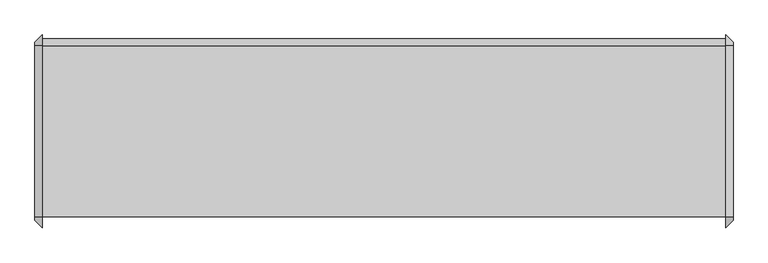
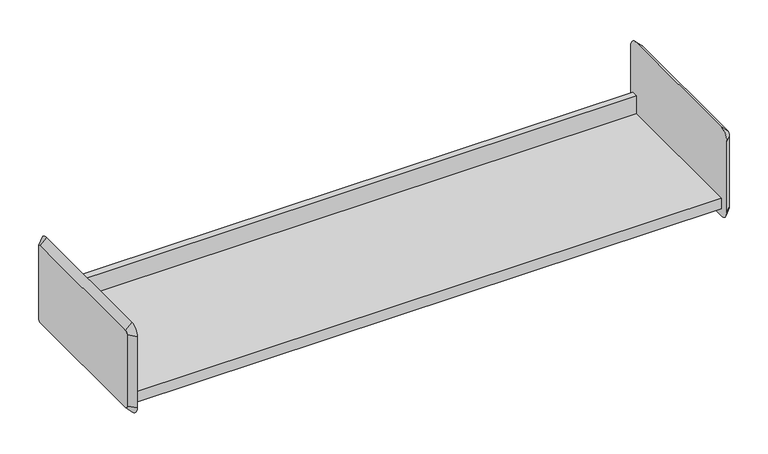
"""IFC4 building model written with IfcOpenShell, lengths in millimetres: furniture geometry."""

from ifc_helpers import new_model, si_unit, frame, origin, place, context, project, spatial, polyline, circle_curve, outline, extrude, source, transform, mapped, element, save
from ifc_brep_helpers import plane_surface, revolved_surface, advanced_brep


def furniture_f92ff600(model_context):
    return source(origin(), model_context, "Body", "SolidModel", [
        extrude(outline(polyline([(-136.525, 1384.3), (161.925, 1384.3), (161.925, 1422.4), (174.625, 1422.4), (174.625, 1419.225), (165.1, 1419.225), (165.1, 1381.125), (-133.35, 1381.125), (-133.35, 1362.075), (-136.525, 1362.075), (-136.525, 1384.3)])), frame((-720.8420045, 0.0, 0.0), z_axis=(1.0, 0.0, 0.0), x_axis=(0.0, 1.0, 0.0)), (0.0, 0.0, 1.0), 1193.8),
        advanced_brep(
        [(485.6579955, 161.925, 1524.0), (485.6579955, -136.525, 1524.0), (485.6579955, -142.875, 1517.65), (485.6579955, -142.875, 1365.25), (485.6579955, -136.525, 1358.9), (485.6579955, 161.925, 1358.9), (485.6579955, 168.275, 1365.25), (485.6579955, 168.275, 1517.65), (472.9579955, 161.925, 1536.7), (472.9579955, 180.975, 1517.65), (472.9579955, 180.975, 1365.25), (472.9579955, 161.925, 1346.2), (472.9579955, -136.525, 1346.2), (472.9579955, -155.575, 1365.25), (472.9579955, -155.575, 1517.65), (472.9579955, -136.525, 1536.7)],
        [
            (0, 1),
            (1, 2, circle_curve(frame((485.6579955, -136.525, 1517.65), z_axis=(1.0, 2.0730084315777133e-12, -2.152944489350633e-12), x_axis=(2.152910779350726e-12, 0.0, 1.0)), 6.35)),
            (2, 3),
            (3, 4, circle_curve(frame((485.6579955, -136.525, 1365.25), z_axis=(1.0, 2.062350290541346e-12, 2.067679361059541e-12), x_axis=(2.062316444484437e-12, -1.0, 0.0)), 6.35)),
            (4, 5),
            (5, 6, circle_curve(frame((485.6579955, 161.925, 1365.25), z_axis=(1.0, 2.0889956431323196e-12, -2.0889956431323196e-12), x_axis=(-2.089008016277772e-12, 0.0, -1.0)), 6.35)),
            (6, 7),
            (7, 0, circle_curve(frame((485.6579955, 161.925, 1517.65), z_axis=(1.0, 2.075672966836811e-12, 2.003730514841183e-12), x_axis=(-2.075662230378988e-12, 1.0, 0.0)), 6.35)),
            (8, 9, circle_curve(frame((472.9579955, 161.925, 1517.65), z_axis=(-1.0, -2.075672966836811e-12, -2.003730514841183e-12), x_axis=(-2.075662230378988e-12, 1.0, 0.0)), 19.05)),
            (9, 10),
            (10, 11, circle_curve(frame((472.9579955, 161.925, 1365.25), z_axis=(-1.0, -2.0889956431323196e-12, 2.0889956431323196e-12), x_axis=(-2.089008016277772e-12, 0.0, -1.0)), 19.05)),
            (11, 12),
            (12, 13, circle_curve(frame((472.9579955, -136.525, 1365.25), z_axis=(-1.0, -2.062350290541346e-12, -2.067679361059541e-12), x_axis=(2.062316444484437e-12, -1.0, 0.0)), 19.05)),
            (13, 14),
            (14, 15, circle_curve(frame((472.9579955, -136.525, 1517.65), z_axis=(-1.0, -2.0730084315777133e-12, 2.152944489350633e-12), x_axis=(2.152910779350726e-12, 0.0, 1.0)), 19.05)),
            (15, 8),
            (15, 1),
            (0, 8),
            (14, 2),
            (13, 3),
            (12, 4),
            (11, 5),
            (10, 6),
            (9, 7),
        ],
        [
            plane_surface(frame((485.6579955, 12.7, 1441.45), z_axis=(1.0, 0.0, 0.0), x_axis=(0.0, -1.0, 0.0))),
            plane_surface(frame((472.9579955, 12.7, 1441.45), z_axis=(-1.0, 0.0, 0.0), x_axis=(0.0, -1.0, 0.0))),
            plane_surface(frame((472.9579955, 12.7, 1536.7), z_axis=(0.707106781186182, 0.0, 0.7071067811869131), x_axis=(0.0, -1.0, 0.0))),
            revolved_surface(polyline([(485.6579955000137, -136.525, 1523.9999999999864), (472.9579955, -136.525, 1536.7)]), (492.0079955, -136.525, 1517.65), (-1.0, -2.0730084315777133e-12, 2.152944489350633e-12)),
            plane_surface(frame((472.9579955, -155.575, 1441.45), z_axis=(0.7071067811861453, -0.7071067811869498, 0.0), x_axis=(0.0, 0.0, -1.0))),
            revolved_surface(polyline([(485.6579955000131, -142.87499999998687, 1365.25), (472.95799549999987, -155.5750000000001, 1365.25)]), (492.0079955, -136.525, 1365.25), (-1.0, -2.062350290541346e-12, -2.067679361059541e-12)),
            plane_surface(frame((472.9579955, 12.7, 1346.2), z_axis=(0.707106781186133, 0.0, -0.707106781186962), x_axis=(0.0, 1.0, 0.0))),
            revolved_surface(polyline([(485.6579955, 161.925, 1358.9), (472.9579954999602, 161.925, 1346.1999999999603)]), (492.0079955, 161.925, 1365.25), (-1.0, -2.0889956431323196e-12, 2.0889956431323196e-12)),
            plane_surface(frame((472.9579955, 180.975, 1441.45), z_axis=(0.7071067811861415, 0.7071067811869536, 0.0), x_axis=(0.0, 0.0, 1.0))),
            revolved_surface(polyline([(485.6579955, 168.27499999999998, 1517.65), (472.9579954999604, 180.97500000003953, 1517.65)]), (492.0079955, 161.925, 1517.65), (-1.0, -2.075672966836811e-12, -2.003730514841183e-12)),
        ],
        [
            (0, [[1, 2, 3, 4, 5, 6, 7, 8]]),
            (1, [[9, 10, 11, 12, 13, 14, 15, 16]]),
            (2, [[-16, 17, -1, 18]]),
            (3, [[-15, 19, -2, -17]]),
            (4, [[-14, 20, -3, -19]]),
            (5, [[-13, 21, -4, -20]]),
            (6, [[-12, 22, -5, -21]]),
            (7, [[-11, 23, -6, -22]]),
            (8, [[-10, 24, -7, -23]]),
            (9, [[-9, -18, -8, -24]]),
        ],
    ),
        advanced_brep(
        [(-733.5420045, -136.525, 1524.0), (-733.5420045, 161.925, 1524.0), (-733.5420045, 168.275, 1517.65), (-733.5420045, 168.275, 1365.25), (-733.5420045, 161.925, 1358.9), (-733.5420045, -136.525, 1358.9), (-733.5420045, -142.875, 1365.25), (-733.5420045, -142.875, 1517.65), (-720.8420045, -136.525, 1536.7), (-720.8420045, -155.575, 1517.65), (-720.8420045, -155.575, 1365.25), (-720.8420045, -136.525, 1346.2), (-720.8420045, 161.925, 1346.2), (-720.8420045, 180.975, 1365.25), (-720.8420045, 180.975, 1517.65), (-720.8420045, 161.925, 1536.7)],
        [
            (0, 1),
            (1, 2, circle_curve(frame((-733.5420045, 161.925, 1517.65), z_axis=(-1.0, 0.0, 0.0), x_axis=(0.0, 0.0, 1.0)), 6.35)),
            (2, 3),
            (3, 4, circle_curve(frame((-733.5420045, 161.925, 1365.25), z_axis=(-1.0, 0.0, 0.0), x_axis=(0.0, 1.0, 0.0)), 6.35)),
            (4, 5),
            (5, 6, circle_curve(frame((-733.5420045, -136.525, 1365.25), z_axis=(-1.0, 0.0, 0.0), x_axis=(0.0, 0.0, -1.0)), 6.35)),
            (6, 7),
            (7, 0, circle_curve(frame((-733.5420045, -136.525, 1517.65), z_axis=(-1.0, 0.0, 0.0), x_axis=(0.0, -1.0, 0.0)), 6.35)),
            (8, 9, circle_curve(frame((-720.8420045, -136.525, 1517.65), z_axis=(1.0, 0.0, 0.0), x_axis=(0.0, -1.0, 0.0)), 19.05)),
            (9, 10),
            (10, 11, circle_curve(frame((-720.8420045, -136.525, 1365.25), z_axis=(1.0, 0.0, 0.0), x_axis=(0.0, 0.0, -1.0)), 19.05)),
            (11, 12),
            (12, 13, circle_curve(frame((-720.8420045, 161.925, 1365.25), z_axis=(1.0, 0.0, 0.0), x_axis=(0.0, 1.0, 0.0)), 19.05)),
            (13, 14),
            (14, 15, circle_curve(frame((-720.8420045, 161.925, 1517.65), z_axis=(1.0, 0.0, 0.0), x_axis=(0.0, 0.0, 1.0)), 19.05)),
            (15, 8),
            (15, 1),
            (0, 8),
            (14, 2),
            (13, 3),
            (12, 4),
            (11, 5),
            (10, 6),
            (9, 7),
        ],
        [
            plane_surface(frame((-733.5420045, 12.7, 1441.45), z_axis=(-1.0, 0.0, 0.0), x_axis=(0.0, -1.0, 0.0))),
            plane_surface(frame((-720.8420045, 12.7, 1441.45), z_axis=(1.0, 0.0, 0.0), x_axis=(0.0, -1.0, 0.0))),
            plane_surface(frame((-720.8420045, 12.7, 1536.7), z_axis=(-0.7071067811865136, 0.0, 0.7071067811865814), x_axis=(0.0, 1.0, 0.0))),
            revolved_surface(polyline([(-733.5420045, 161.925, 1524.0), (-720.8420045, 161.925, 1536.7)]), (-739.8920045, 161.925, 1517.65), (1.0, 0.0, 0.0)),
            plane_surface(frame((-720.8420045, 180.975, 1441.45), z_axis=(-0.7071067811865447, 0.7071067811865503, 0.0), x_axis=(0.0, 0.0, -1.0))),
            revolved_surface(polyline([(-733.5420045, 168.27500000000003, 1365.25), (-720.8420045, 180.975, 1365.25)]), (-739.8920045, 161.925, 1365.25), (1.0, 0.0, 0.0)),
            plane_surface(frame((-720.8420045, 12.7, 1346.2), z_axis=(-0.7071067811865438, 0.0, -0.7071067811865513), x_axis=(0.0, -1.0, 0.0))),
            revolved_surface(polyline([(-733.5420045, -136.525, 1358.9), (-720.8420045, -136.525, 1346.2)]), (-739.8920045, -136.525, 1365.25), (1.0, 0.0, 0.0)),
            plane_surface(frame((-720.8420045, -155.575, 1441.45), z_axis=(-0.7071067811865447, -0.7071067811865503, 0.0), x_axis=(0.0, 0.0, 1.0))),
            revolved_surface(polyline([(-733.5420045, -142.87500000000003, 1517.65), (-720.8420045, -155.575, 1517.65)]), (-739.8920045, -136.525, 1517.65), (1.0, 0.0, 0.0)),
        ],
        [
            (0, [[1, 2, 3, 4, 5, 6, 7, 8]]),
            (1, [[9, 10, 11, 12, 13, 14, 15, 16]]),
            (2, [[-16, 17, -1, 18]]),
            (3, [[-15, 19, -2, -17]]),
            (4, [[-14, 20, -3, -19]]),
            (5, [[-13, 21, -4, -20]]),
            (6, [[-12, 22, -5, -21]]),
            (7, [[-11, 23, -6, -22]]),
            (8, [[-10, 24, -7, -23]]),
            (9, [[-9, -18, -8, -24]]),
        ],
    ),
    ])


if __name__ == "__main__":
    model = new_model("IFC4")
    model_context = context("Model", 3, world=origin())
    ifc_project = project(units=[si_unit("LENGTHUNIT", "METRE", prefix="MILLI")], contexts=[model_context])
    site = spatial("IfcSite", under=ifc_project)
    building = spatial("IfcBuilding", under=site)
    placement = place(None, origin())
    furniture_shape = furniture_f92ff600(model_context)
    element("IfcFurniture", 1, ObjectType="HermanMiller_ActionOffice_A3220_B-StyleStorageDisplay : Shelf 13\"D x 48\"W", at=placement, inside=building, context=model_context, shape_type="MappedRepresentation", body=[
        mapped(furniture_shape, transform((0.0, 0.0, 0.0), x_axis=(1.0, 0.0, 0.0), y_axis=(0.0, 1.0, 0.0), z_axis=(0.0, 0.0, 1.0))),
    ])
    save(model, "model.ifc")
